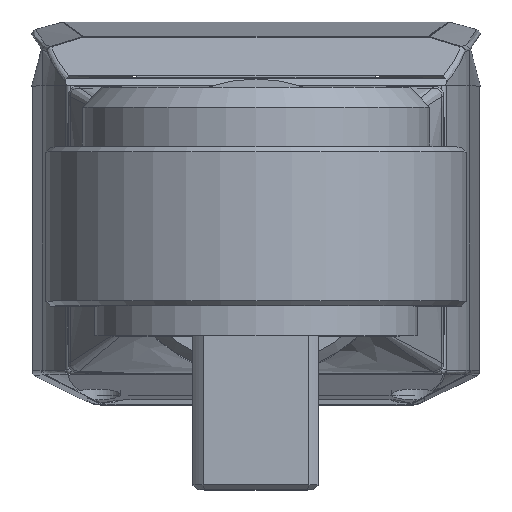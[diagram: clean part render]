
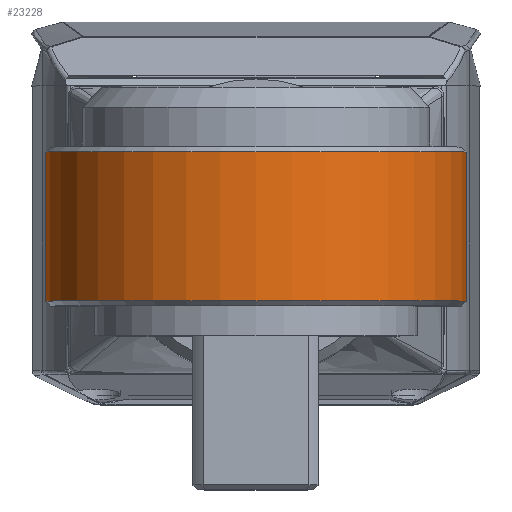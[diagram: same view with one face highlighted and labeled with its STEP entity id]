
A CAD part, top view. The second image highlights one B-rep face of the part: STEP entity #23228.
In plain terms, the highlighted cylindrical face has radius 21.176 mm (diameter 42.351 mm), a partial arc.
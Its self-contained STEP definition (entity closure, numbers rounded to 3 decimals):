
#22479=CARTESIAN_POINT('',(0.,10.05,213.));
#22480=DIRECTION('',(0.,-1.,0.));
#22481=DIRECTION('',(0.956,0.,-0.292));
#22482=AXIS2_PLACEMENT_3D('',#22479,#22480,#22481);
#22484=DIRECTION('',(0.,1.,0.));
#22485=VECTOR('',#22484,15.);
#22486=CARTESIAN_POINT('',(-20.25,10.05,
206.809));
#22487=LINE('',#22486,#22485);
#22488=CARTESIAN_POINT('',(0.,25.05,213.));
#22489=DIRECTION('',(0.,1.,0.));
#22490=DIRECTION('',(-0.956,0.,-0.292));
#22491=AXIS2_PLACEMENT_3D('',#22488,#22489,#22490);
#22497=DIRECTION('',(0.,1.,0.));
#22498=VECTOR('',#22497,15.);
#22499=CARTESIAN_POINT('',(20.25,10.05,206.809));
#22500=LINE('',#22499,#22498);
#22737=CARTESIAN_POINT('',(-20.25,10.05,
206.809));
#22738=VERTEX_POINT('',#22737);
#22743=CARTESIAN_POINT('',(20.25,10.05,206.809));
#22744=VERTEX_POINT('',#22743);
#22753=CARTESIAN_POINT('',(20.25,25.05,206.809));
#22754=VERTEX_POINT('',#22753);
#22759=CARTESIAN_POINT('',(-20.25,25.05,206.809));
#22760=VERTEX_POINT('',#22759);
#23214=CARTESIAN_POINT('',(0.,9.55,213.));
#23215=DIRECTION('',(0.,-1.,0.));
#23216=DIRECTION('',(1.,0.,0.));
#23217=AXIS2_PLACEMENT_3D('',#23214,#23215,#23216);
#23218=CYLINDRICAL_SURFACE('',#23217,21.176);
#23220=ORIENTED_EDGE('',*,*,#23219,.T.);
#23221=ORIENTED_EDGE('',*,*,#23209,.T.);
#23223=ORIENTED_EDGE('',*,*,#23222,.T.);
#23225=ORIENTED_EDGE('',*,*,#23224,.F.);
#23226=EDGE_LOOP('',(#23220,#23221,#23223,#23225));
#23227=FACE_OUTER_BOUND('',#23226,.F.);
#22483=CIRCLE('',#22482,21.176);
#22492=CIRCLE('',#22491,21.176);
#23209=EDGE_CURVE('',#22738,#22760,#22487,.T.);
#23219=EDGE_CURVE('',#22744,#22738,#22483,.T.);
#23222=EDGE_CURVE('',#22760,#22754,#22492,.T.);
#23224=EDGE_CURVE('',#22744,#22754,#22500,.T.);
#23228=ADVANCED_FACE('',(#23227),#23218,.T.);
